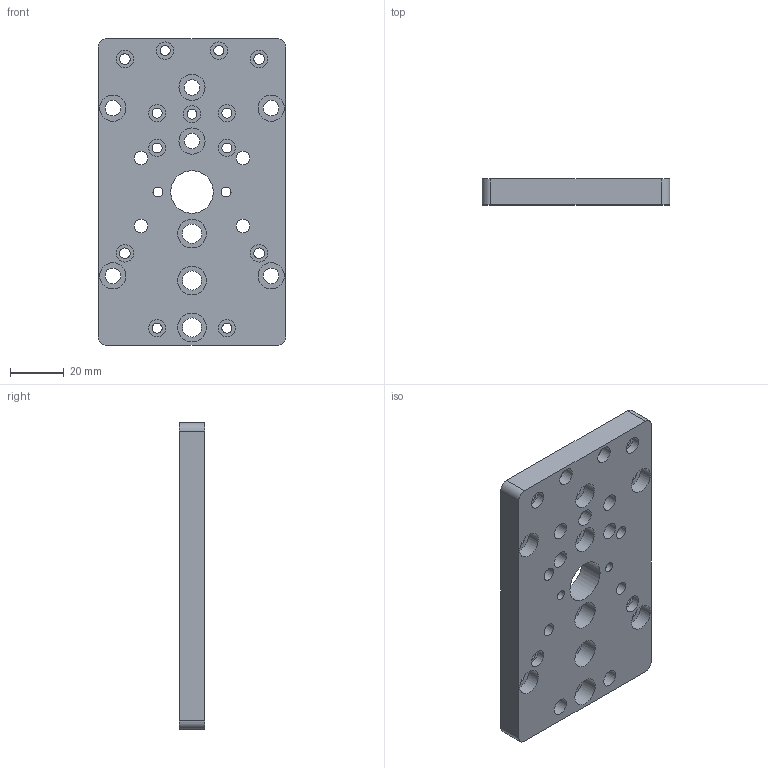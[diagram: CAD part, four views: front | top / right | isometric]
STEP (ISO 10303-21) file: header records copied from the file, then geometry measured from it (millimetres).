
FILE_DESCRIPTION( ( 'Unknown' ), '1' );
FILE_NAME( 'S:/A & P Tool/Start Button Swivel Mount/STP - IGES master files/AFSB-560-D-AMT Datalogic camera adapter plate.stp', 'Unknown', ( 'Unknown' ), ( 'Unknown' ), 'PSStep 16.0.42', 'Unknown', ' ' );
FILE_SCHEMA( ( 'AUTOMOTIVE_DESIGN { 1 0 10303 214 1 1 1 1 }' ) );
Length unit declared in the file: millimetre
Products named in the file (1): 1
Bounding box: 69.85 x 9.53 x 114.3 mm (x, y, z)
Volume: 65458.2 mm3; surface area: 23465 mm2
Topology: 1 solids, 1 shells, 83 faces, 201 edges, 142 vertices
Faces by surface type: cylinder 55, plane 28
Full cylindrical faces by diameter (mm): 3.68 x2, 3.7 x9, 4 x4, 4.976 x4, 5.8 x6, 6.35 x6, 6.5 x7, 7.144 x3, 9.75 x6, 10.719 x3, 15.875 x1
Entity records: 2842 total; most frequent: DIRECTION 404, CARTESIAN_POINT 328, ORIENTED_EDGE 252, EDGE_LOOP 214, AXIS2_PLACEMENT_3D 194, FACE_OUTER_BOUND 134, EDGE_CURVE 126, VERTEX_POINT 118
